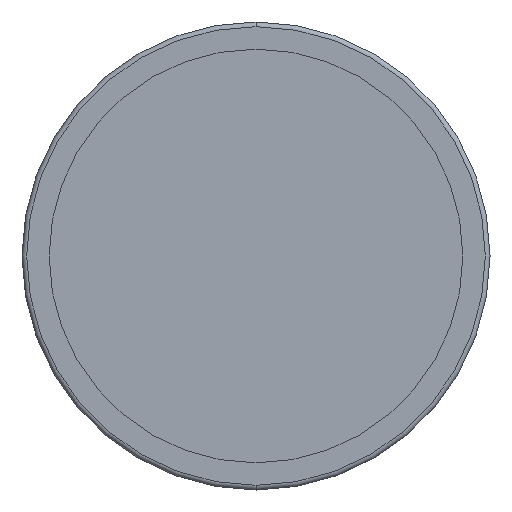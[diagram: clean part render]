
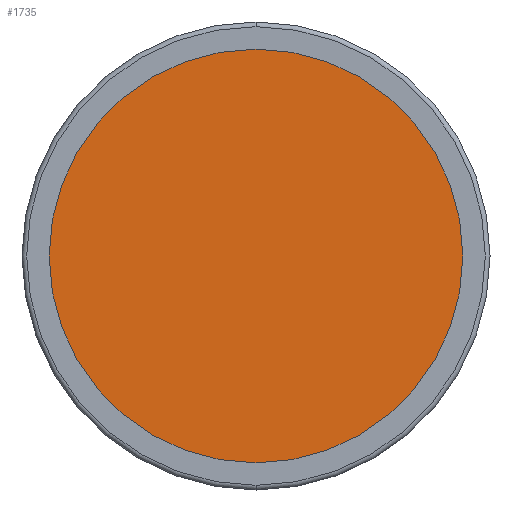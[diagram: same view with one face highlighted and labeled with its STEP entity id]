
A CAD part, front view. The second image highlights one B-rep face of the part: STEP entity #1735.
In plain terms, the highlighted planar face has unit normal (0, -1, 0).
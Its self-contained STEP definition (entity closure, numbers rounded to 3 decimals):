
#340 = VERTEX_POINT ( 'NONE', #1996 ) ;
#380 = CARTESIAN_POINT ( 'NONE',  ( -43.75, -3., 0. ) ) ;
#390 = DIRECTION ( 'NONE',  ( 0., 1., 0. ) ) ;
#469 = EDGE_CURVE ( 'NONE', #737, #340, #1524, .T. ) ;
#557 = AXIS2_PLACEMENT_3D ( 'NONE', #380, #1558, #1138 ) ;
#654 = ORIENTED_EDGE ( 'NONE', *, *, #469, .F. ) ;
#737 = VERTEX_POINT ( 'NONE', #1556 ) ;
#859 = EDGE_LOOP ( 'NONE', ( #654, #1219 ) ) ;
#973 = CIRCLE ( 'NONE', #2356, 43.75 ) ;
#975 = PLANE ( 'NONE',  #557 ) ;
#1110 = AXIS2_PLACEMENT_3D ( 'NONE', #1187, #390, #1718 ) ;
#1138 = DIRECTION ( 'NONE',  ( 0., 0., -1. ) ) ;
#1187 = CARTESIAN_POINT ( 'NONE',  ( 0., -3., 0. ) ) ;
#1219 = ORIENTED_EDGE ( 'NONE', *, *, #2210, .F. ) ;
#1328 = CARTESIAN_POINT ( 'NONE',  ( 0., -3., 0. ) ) ;
#1524 = CIRCLE ( 'NONE', #1110, 43.75 ) ;
#1556 = CARTESIAN_POINT ( 'NONE',  ( 0., -3., 43.75 ) ) ;
#1558 = DIRECTION ( 'NONE',  ( 0., -1., 0. ) ) ;
#1718 = DIRECTION ( 'NONE',  ( 0., 0., 1. ) ) ;
#1735 = ADVANCED_FACE ( 'NONE', ( #2090 ), #975, .T. ) ;
#1896 = DIRECTION ( 'NONE',  ( 0., 1., 0. ) ) ;
#1996 = CARTESIAN_POINT ( 'NONE',  ( 0., -3., -43.75 ) ) ;
#2059 = DIRECTION ( 'NONE',  ( 0., 0., 1. ) ) ;
#2090 = FACE_OUTER_BOUND ( 'NONE', #859, .T. ) ;
#2210 = EDGE_CURVE ( 'NONE', #340, #737, #973, .T. ) ;
#2356 = AXIS2_PLACEMENT_3D ( 'NONE', #1328, #1896, #2059 ) ;
